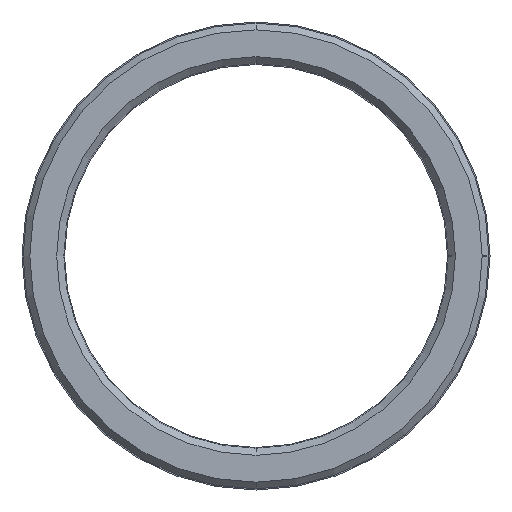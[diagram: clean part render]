
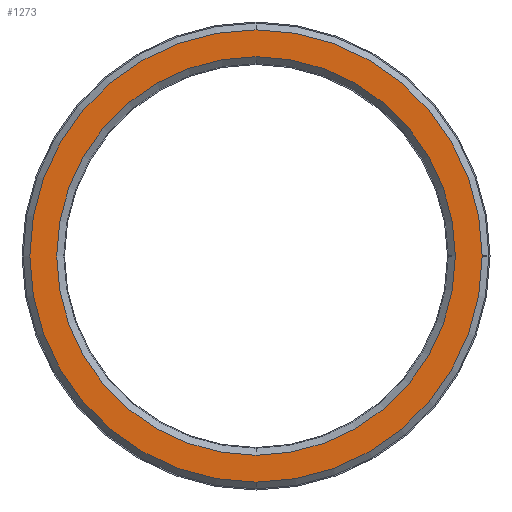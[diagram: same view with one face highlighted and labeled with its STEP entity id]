
A CAD part, front view. The second image highlights one B-rep face of the part: STEP entity #1273.
In plain terms, the highlighted planar face has unit normal (0, -1, 0).
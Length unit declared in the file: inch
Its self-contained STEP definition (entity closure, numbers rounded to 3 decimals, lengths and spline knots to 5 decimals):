
#8 = VERTEX_POINT ( 'NONE', #1005 ) ;
#39 = ORIENTED_EDGE ( 'NONE', *, *, #711, .F. ) ;
#96 = DIRECTION ( 'NONE',  ( 0., -1., 0. ) ) ;
#109 = CARTESIAN_POINT ( 'NONE',  ( 3976.37795, -275.59055, 0. ) ) ;
#112 = CARTESIAN_POINT ( 'NONE',  ( 0., -275.59055, 0. ) ) ;
#114 = CIRCLE ( 'NONE', #839, 3503.93701 ) ;
#129 = CARTESIAN_POINT ( 'NONE',  ( 3503.93701, -275.59055, 0. ) ) ;
#173 = AXIS2_PLACEMENT_3D ( 'NONE', #1010, #297, #1725 ) ;
#182 = CIRCLE ( 'NONE', #668, 3976.37795 ) ;
#264 = AXIS2_PLACEMENT_3D ( 'NONE', #1395, #1831, #535 ) ;
#282 = DIRECTION ( 'NONE',  ( 0., 0., -1. ) ) ;
#297 = DIRECTION ( 'NONE',  ( 0., -1., 0. ) ) ;
#321 = EDGE_CURVE ( 'NONE', #459, #1326, #114, .T. ) ;
#382 = CIRCLE ( 'NONE', #981, 3976.37795 ) ;
#440 = DIRECTION ( 'NONE',  ( 0., -1., 0. ) ) ;
#459 = VERTEX_POINT ( 'NONE', #1403 ) ;
#463 = EDGE_CURVE ( 'NONE', #1827, #505, #182, .T. ) ;
#505 = VERTEX_POINT ( 'NONE', #1130 ) ;
#528 = LINE ( 'NONE', #109, #1265 ) ;
#535 = DIRECTION ( 'NONE',  ( 0., 0., -1. ) ) ;
#536 = ORIENTED_EDGE ( 'NONE', *, *, #1028, .T. ) ;
#565 = DIRECTION ( 'NONE',  ( 0., 0., -1. ) ) ;
#578 = CARTESIAN_POINT ( 'NONE',  ( 0., -275.59055, -3976.37795 ) ) ;
#592 = FACE_OUTER_BOUND ( 'NONE', #1721, .T. ) ;
#668 = AXIS2_PLACEMENT_3D ( 'NONE', #966, #96, #1692 ) ;
#711 = EDGE_CURVE ( 'NONE', #806, #8, #1550, .T. ) ;
#720 = VERTEX_POINT ( 'NONE', #972 ) ;
#737 = ORIENTED_EDGE ( 'NONE', *, *, #1086, .T. ) ;
#747 = CARTESIAN_POINT ( 'NONE',  ( 3976.37795, -275.59055, 0. ) ) ;
#804 = EDGE_CURVE ( 'NONE', #1326, #720, #1120, .T. ) ;
#806 = VERTEX_POINT ( 'NONE', #1588 ) ;
#822 = CARTESIAN_POINT ( 'NONE',  ( 0., -275.59055, 0. ) ) ;
#825 = VERTEX_POINT ( 'NONE', #578 ) ;
#839 = AXIS2_PLACEMENT_3D ( 'NONE', #1371, #1096, #1680 ) ;
#853 = DIRECTION ( 'NONE',  ( 0., -1., 0. ) ) ;
#866 = AXIS2_PLACEMENT_3D ( 'NONE', #822, #1413, #1240 ) ;
#884 = ORIENTED_EDGE ( 'NONE', *, *, #804, .F. ) ;
#966 = CARTESIAN_POINT ( 'NONE',  ( 0., -275.59055, 0. ) ) ;
#972 = CARTESIAN_POINT ( 'NONE',  ( 3976.37795, -275.59055, 0. ) ) ;
#981 = AXIS2_PLACEMENT_3D ( 'NONE', #1863, #440, #565 ) ;
#1005 = CARTESIAN_POINT ( 'NONE',  ( 0., -275.59055, 3503.93701 ) ) ;
#1010 = CARTESIAN_POINT ( 'NONE',  ( 3976.37795, -275.59055, 0. ) ) ;
#1028 = EDGE_CURVE ( 'NONE', #806, #1827, #528, .T. ) ;
#1075 = CIRCLE ( 'NONE', #264, 3503.93701 ) ;
#1086 = EDGE_CURVE ( 'NONE', #505, #825, #1566, .T. ) ;
#1096 = DIRECTION ( 'NONE',  ( 0., -1., 0. ) ) ;
#1120 = LINE ( 'NONE', #1143, #1208 ) ;
#1130 = CARTESIAN_POINT ( 'NONE',  ( 0., -275.59055, 3976.37795 ) ) ;
#1143 = CARTESIAN_POINT ( 'NONE',  ( 3976.37795, -275.59055, 0. ) ) ;
#1145 = EDGE_CURVE ( 'NONE', #8, #459, #1075, .T. ) ;
#1208 = VECTOR ( 'NONE', #1578, 39.37008 ) ;
#1240 = DIRECTION ( 'NONE',  ( 0., 0., -1. ) ) ;
#1265 = VECTOR ( 'NONE', #1694, 39.37008 ) ;
#1266 = ORIENTED_EDGE ( 'NONE', *, *, #1270, .T. ) ;
#1270 = EDGE_CURVE ( 'NONE', #825, #720, #382, .T. ) ;
#1273 = ADVANCED_FACE ( 'NONE', ( #592 ), #1592, .T. ) ;
#1326 = VERTEX_POINT ( 'NONE', #129 ) ;
#1371 = CARTESIAN_POINT ( 'NONE',  ( 0., -275.59055, 0. ) ) ;
#1395 = CARTESIAN_POINT ( 'NONE',  ( 0., -275.59055, 0. ) ) ;
#1400 = AXIS2_PLACEMENT_3D ( 'NONE', #112, #853, #282 ) ;
#1403 = CARTESIAN_POINT ( 'NONE',  ( 0., -275.59055, -3503.93701 ) ) ;
#1413 = DIRECTION ( 'NONE',  ( 0., -1., 0. ) ) ;
#1448 = ORIENTED_EDGE ( 'NONE', *, *, #463, .T. ) ;
#1550 = CIRCLE ( 'NONE', #1400, 3503.93701 ) ;
#1566 = CIRCLE ( 'NONE', #866, 3976.37795 ) ;
#1578 = DIRECTION ( 'NONE',  ( 1., 0., 0. ) ) ;
#1588 = CARTESIAN_POINT ( 'NONE',  ( 3503.93701, -275.59055, 0. ) ) ;
#1592 = PLANE ( 'NONE',  #173 ) ;
#1680 = DIRECTION ( 'NONE',  ( 0., 0., -1. ) ) ;
#1692 = DIRECTION ( 'NONE',  ( 0., 0., -1. ) ) ;
#1694 = DIRECTION ( 'NONE',  ( 1., 0., 0. ) ) ;
#1721 = EDGE_LOOP ( 'NONE', ( #536, #1448, #737, #1266, #884, #1782, #1738, #39 ) ) ;
#1725 = DIRECTION ( 'NONE',  ( 0., 0., -1. ) ) ;
#1738 = ORIENTED_EDGE ( 'NONE', *, *, #1145, .F. ) ;
#1782 = ORIENTED_EDGE ( 'NONE', *, *, #321, .F. ) ;
#1827 = VERTEX_POINT ( 'NONE', #747 ) ;
#1831 = DIRECTION ( 'NONE',  ( 0., -1., 0. ) ) ;
#1863 = CARTESIAN_POINT ( 'NONE',  ( 0., -275.59055, 0. ) ) ;
